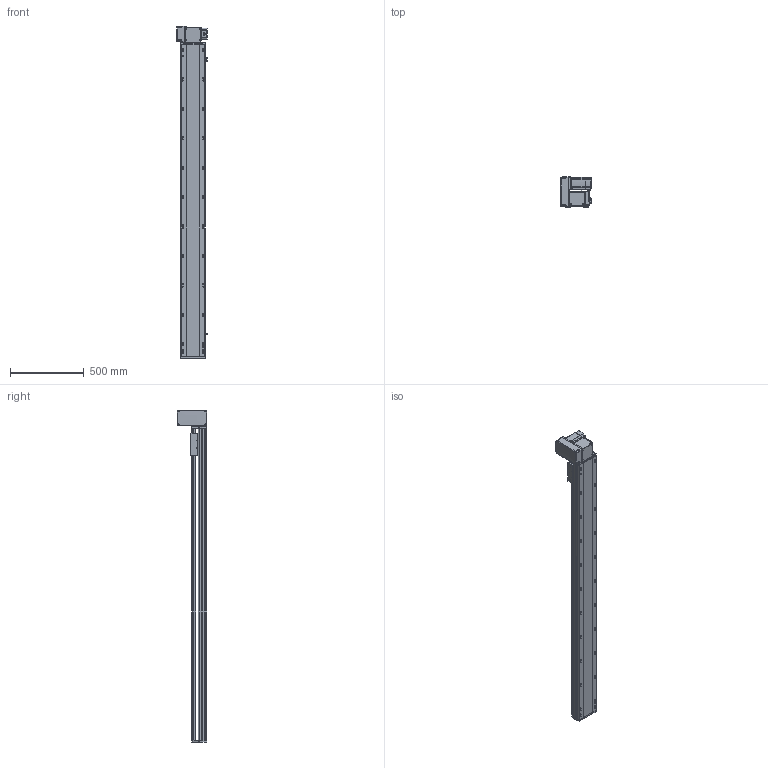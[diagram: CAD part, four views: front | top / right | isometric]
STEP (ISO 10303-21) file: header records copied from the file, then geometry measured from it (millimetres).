
FILE_DESCRIPTION (( 'STEP AP214' ), '1' );
FILE_NAME ('RTB17S-XX-1850-LW-M75-C4.STEP', '2025-12-12T01:09:32', ( '' ), ( '' ), 'SwSTEP 2.0', 'SolidWorks 2018', '' );
FILE_SCHEMA (( 'AUTOMOTIVE_DESIGN' ));
Length unit declared in the file: millimetre
Products named in the file (15): EE672^RTB17S-XX-XX-LW-M75-C4; RTB17S-LW-々湍釱蚾饜-750W^RTB17S-XX-XX-LW-M75-C4; RTB17S-L-004-賑釱^RTB17S-賑釱_RTB17S-XX-XX-LW-M75-C4; RTB17S-賑釱^RTB17S-XX-XX-LW-M75-C4; RTB22S-GY-018P^RTB17S-LW-々湍釱蚾饜-750W_RTB17S-XX-XX-LW-M75-C4; RTB17S-L-007奻裔^RTB17S-XX-XX-LW-M75-C4; RTB17S-L-001-耜醱啣^RTB17S-XX-XX-LW-M75-C4; RTB22S-GY-017P^RTB17S-LW-々湍釱蚾饜-750W_RTB17S-XX-XX-LW-M75-C4; RTB22S-GY-008-M75--萇儂啣^RTB17S-LW-々湍釱蚾饜-750W_RTB17S-XX-XX-LW-M75-C4; RTB17S-L-014-T20-P75--々湍釱^RTB17S-LW-々湍釱蚾饜-750W_RTB17S-XX-XX-LW-M75-C4; RTB17S-XX-1850-LW-M75-C4; RTB17-R-011菁釱^RTB17S-XX-XX-LW-M75-C4; RTB22S-GY-005P^RTB17S-LW-々湍釱蚾饜-750W_RTB17S-XX-XX-LW-M75-C4; 750W萇儂^RTB17S-XX-XX-LW-M75-C4; RTH13-BL-012覜茼え俋离^RTB17S-賑釱_RTB17S-XX-XX-LW-M75-C4
Assembly tree (17 placements, depth 3):
  RTB17S-XX-1850-LW-M75-C4
    RTB17-R-011菁釱^RTB17S-XX-XX-LW-M75-C4
    EE672^RTB17S-XX-XX-LW-M75-C4  x3
    RTB17S-L-001-耜醱啣^RTB17S-XX-XX-LW-M75-C4
    RTB17S-賑釱^RTB17S-XX-XX-LW-M75-C4
      RTB17S-L-004-賑釱^RTB17S-賑釱_RTB17S-XX-XX-LW-M75-C4
      RTH13-BL-012覜茼え俋离^RTB17S-賑釱_RTB17S-XX-XX-LW-M75-C4
    RTB17S-L-007奻裔^RTB17S-XX-XX-LW-M75-C4
    750W萇儂^RTB17S-XX-XX-LW-M75-C4
    RTB17S-LW-々湍釱蚾饜-750W^RTB17S-XX-XX-LW-M75-C4
      RTB17S-L-014-T20-P75--々湍釱^RTB17S-LW-々湍釱蚾饜-750W_RTB17S-XX-XX-LW-M75-C4
      RTB22S-GY-005P^RTB17S-LW-々湍釱蚾饜-750W_RTB17S-XX-XX-LW-M75-C4
      RTB22S-GY-017P^RTB17S-LW-々湍釱蚾饜-750W_RTB17S-XX-XX-LW-M75-C4  x2
      RTB22S-GY-008-M75--萇儂啣^RTB17S-LW-々湍釱蚾饜-750W_RTB17S-XX-XX-LW-M75-C4
      RTB22S-GY-018P^RTB17S-LW-々湍釱蚾饜-750W_RTB17S-XX-XX-LW-M75-C4
Bounding box: 210.4 x 201.5 x 2257.5 mm (x, y, z)
Volume: 17509381.9 mm3; surface area: 3116797.5 mm2
Topology: 17 solids, 17 shells, 2169 faces, 6052 edges, 3914 vertices
Faces by surface type: plane 980, cylinder 773, bspline 294, cone 110, sphere 8, torus 4
Entity records: 61942 total; most frequent: CARTESIAN_POINT 18316, ORIENTED_EDGE 8948, DIRECTION 8312, EDGE_CURVE 4474, AXIS2_PLACEMENT_3D 2934, VERTEX_POINT 2918, VECTOR 2444, LINE 2444
